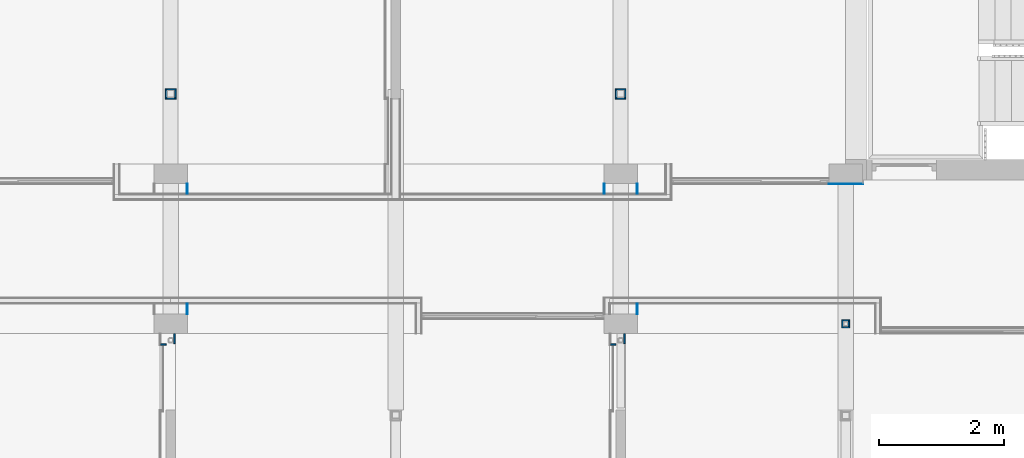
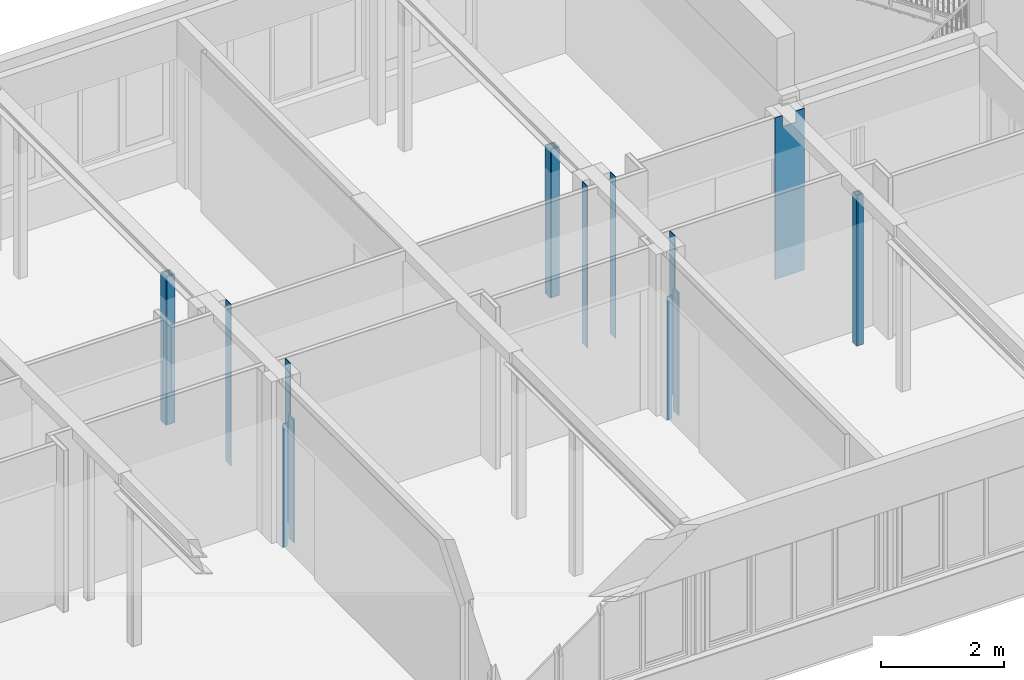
# One storey, part 66 of 117: 22 walls.
"""IFC2X3 building model written with IfcOpenShell, lengths in millimetres."""

from ifc_helpers import new_model, entity, si_unit, converted_unit, derived_unit, money_unit, direction, frame, origin_with_axes, place, context, subcontext, project, spatial, faceted_brep, material, type_object, element, save


model = new_model("IFC2X3")

# Units and contexts
model_context = context("Model", 3, precision=0.01, world=origin_with_axes(), true_north=direction((0.0, 1.0)))
body_context = subcontext(model_context, "Body", "Model", "MODEL_VIEW")
ifc_project = project(units=[si_unit("LENGTHUNIT", "METRE", prefix="MILLI"), si_unit("AREAUNIT", "SQUARE_METRE"), si_unit("VOLUMEUNIT", "CUBIC_METRE"), converted_unit("PLANEANGLEUNIT", "DEGREE", entity("IfcPlaneAngleMeasure", 0.0174532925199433), si_unit("PLANEANGLEUNIT", "RADIAN"), dimensions=[0, 0, 0, 0, 0, 0, 0]), money_unit("EUR"), converted_unit("TIMEUNIT", "Year", entity("IfcTimeMeasure", 31557600.0), si_unit("TIMEUNIT", "SECOND"), dimensions=[0, 0, 1, 0, 0, 0, 0]), si_unit("MASSUNIT", "GRAM", prefix="KILO"), si_unit("THERMODYNAMICTEMPERATUREUNIT", "DEGREE_CELSIUS"), si_unit("LUMINOUSINTENSITYUNIT", "LUMEN"), si_unit("ENERGYUNIT", "JOULE", prefix="MEGA"), derived_unit("THERMALCONDUCTANCEUNIT", [(si_unit("POWERUNIT", "WATT"), 1), (si_unit("LENGTHUNIT", "METRE"), -1), (si_unit("THERMODYNAMICTEMPERATUREUNIT", "KELVIN"), -1)]), derived_unit("SPECIFICHEATCAPACITYUNIT", [(si_unit("ENERGYUNIT", "JOULE"), 1), (si_unit("MASSUNIT", "GRAM", prefix="KILO"), -1), (si_unit("THERMODYNAMICTEMPERATUREUNIT", "KELVIN"), -1)]), derived_unit("MASSDENSITYUNIT", [(si_unit("MASSUNIT", "GRAM", prefix="KILO"), 1), (si_unit("VOLUMEUNIT", "CUBIC_METRE"), -1)])], contexts=[model_context])

# Site, building, storey
site_placement = place(None, origin_with_axes())
site = spatial("IfcSite", under=ifc_project, at=site_placement, Name="Site", CompositionType="ELEMENT")
building_placement = place(site_placement, origin_with_axes())
building = spatial("IfcBuilding", under=site, at=building_placement, Name="Naam gebouw", CompositionType="ELEMENT")
storey_placement = place(building_placement, frame((0.0, 0.0, 4150.0), z_axis=(0.0, 0.0, 1.0), x_axis=(1.0, 0.0, 0.0)))
storey = spatial("IfcBuildingStorey", under=building, at=storey_placement, Name="1e verdieping N", CompositionType="ELEMENT", Elevation=4150.0)

# Walls
ifc_material = material(Name="Gipsplaat")
wall_type_1 = type_object("IfcWallType", Name="Metalstud 100 enkel 100", PredefinedType="NOTDEFINED")
wall_1_placement = place(storey_placement, frame((50669.99999999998, 18180.91242510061, 0.0), z_axis=(0.0, 0.0, 1.0), x_axis=(0.0, 1.0, 0.0)))
element("IfcWall", 1, at=wall_1_placement, inside=storey, type_object=wall_type_1, material=ifc_material, Name="_Wand-x", context=body_context, shape_type="Brep", body=[
    faceted_brep([(164.999999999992, 0.0, 0.0), (164.999999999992, 12.50000000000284, 0.0), (164.999999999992, 12.50000000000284, 3200.0), (164.999999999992, 0.0, 3200.0), (0.0, 0.0, 0.0), (0.0, 12.50000000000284, 0.0), (0.0, 12.50000000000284, 3200.0), (0.0, 0.0, 3200.0)], [[[0, 1, 2, 3]], [[4, 5, 1, 0]], [[1, 5, 6, 2]], [[2, 6, 7, 3]], [[4, 0, 3, 7]], [[5, 4, 7, 6]]]),
])
wall_2_placement = place(storey_placement, frame((43469.99999999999, 18180.91242510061, 0.0), z_axis=(0.0, 0.0, 1.0), x_axis=(0.0, 1.0, 0.0)))
element("IfcWall", 2, at=wall_2_placement, inside=storey, type_object=wall_type_1, material=ifc_material, Name="_Wand-x", context=body_context, shape_type="Brep", body=[
    faceted_brep([(164.9999999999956, 0.0, 0.0), (164.9999999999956, 12.50000000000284, 0.0), (164.9999999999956, 12.50000000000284, 3200.0), (164.9999999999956, 0.0, 3200.0), (0.0, 0.0, 0.0), (0.0, 12.50000000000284, 0.0), (0.0, 12.50000000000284, 3200.0), (0.0, 0.0, 3200.0)], [[[0, 1, 2, 3]], [[4, 5, 1, 0]], [[1, 5, 6, 2]], [[2, 6, 7, 3]], [[4, 0, 3, 7]], [[5, 4, 7, 6]]]),
])
wall_3_placement = place(storey_placement, frame((43470.0, 20105.91242510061, 0.0), z_axis=(0.0, 0.0, 1.0), x_axis=(0.0, 1.0, 0.0)))
element("IfcWall", 3, at=wall_3_placement, inside=storey, type_object=wall_type_1, material=ifc_material, Name="_Wand-x", context=body_context, shape_type="Brep", body=[
    faceted_brep([(164.9999999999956, 0.0, 0.0), (164.9999999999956, 12.50000000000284, 0.0), (164.9999999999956, 12.50000000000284, 3200.0), (164.9999999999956, 0.0, 3200.0), (0.0, 0.0, 0.0), (0.0, 12.50000000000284, 0.0), (0.0, 12.50000000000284, 3200.0), (0.0, 0.0, 3200.0)], [[[0, 1, 2, 3]], [[0, 4, 5, 1]], [[1, 5, 6, 2]], [[2, 6, 7, 3]], [[4, 0, 3, 7]], [[5, 4, 7, 6]]]),
])
wall_4_placement = place(storey_placement, frame((50129.99999999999, 20105.91242510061, 0.0), z_axis=(0.0, 0.0, 1.0), x_axis=(0.0, 1.0, 0.0)))
element("IfcWall", 4, at=wall_4_placement, inside=storey, type_object=wall_type_1, material=ifc_material, Name="_Wand-x", context=body_context, shape_type="Brep", body=[
    faceted_brep([(164.9999999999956, -12.50000000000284, 0.0), (164.9999999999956, 0.0, 0.0), (164.9999999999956, 0.0, 3200.0), (164.9999999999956, -12.50000000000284, 3200.0), (0.0, -12.50000000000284, 0.0), (0.0, 0.0, 0.0), (0.0, 0.0, 3200.0), (0.0, -12.50000000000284, 3200.0)], [[[0, 1, 2, 3]], [[0, 4, 5, 1]], [[1, 5, 6, 2]], [[2, 6, 7, 3]], [[4, 0, 3, 7]], [[5, 4, 7, 6]]]),
])
wall_5_placement = place(storey_placement, frame((50669.99999999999, 20105.91242510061, 0.0), z_axis=(0.0, 0.0, 1.0), x_axis=(0.0, 1.0, 0.0)))
element("IfcWall", 5, at=wall_5_placement, inside=storey, type_object=wall_type_1, material=ifc_material, Name="_Wand-x", context=body_context, shape_type="Brep", body=[
    faceted_brep([(164.9999999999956, 0.0, 0.0), (164.9999999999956, 12.50000000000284, 0.0), (164.9999999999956, 12.50000000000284, 3200.0), (164.9999999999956, 0.0, 3200.0), (0.0, 0.0, 0.0), (0.0, 12.50000000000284, 0.0), (0.0, 12.50000000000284, 3200.0), (0.0, 0.0, 3200.0)], [[[0, 1, 2, 3]], [[0, 4, 5, 1]], [[1, 5, 6, 2]], [[2, 6, 7, 3]], [[4, 0, 3, 7]], [[5, 4, 7, 6]]]),
])
wall_type_2 = type_object("IfcWallType", Name="Gipsplaat 25", PredefinedType="NOTDEFINED")
wall_6_placement = place(storey_placement, frame((50484.99999999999, 21620.9124251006, 0.0), z_axis=(0.0, 0.0, 1.0), x_axis=(0.0, 1.0, 0.0)))
element("IfcWall", 6, at=wall_6_placement, inside=storey, type_object=wall_type_2, material=ifc_material, Name="_Wand-x", context=body_context, shape_type="Brep", body=[
    faceted_brep([(145.0000000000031, 25.00000000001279, 0.0), (145.0000000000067, 0.0, 0.0), (24.99999999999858, 0.0, 0.0), (24.99999999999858, 25.00000000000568, 0.0), (145.0000000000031, 25.00000000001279, 2940.0), (145.0000000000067, 0.0, 2940.0), (24.99999999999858, 0.0, 2940.0), (24.99999999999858, 25.00000000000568, 2940.0)], [[[0, 1, 2, 3]], [[1, 0, 4, 5]], [[1, 5, 6, 2]], [[7, 3, 2, 6]], [[4, 0, 3, 7]], [[5, 4, 7, 6]]]),
])
wall_7_placement = place(storey_placement, frame((50315.0, 21790.91242510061, 0.0), z_axis=(0.0, 0.0, 1.0), x_axis=(1.0, 0.0, 0.0)))
element("IfcWall", 7, at=wall_7_placement, inside=storey, type_object=wall_type_2, material=ifc_material, Name="_Wand-x", context=body_context, shape_type="Brep", body=[
    faceted_brep([(170.0000000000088, -24.99999999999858, 2940.0), (170.0000000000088, 0.0, 2940.0), (24.99999999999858, 0.0, 2940.0), (24.99999999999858, -24.99999999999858, 2940.0), (170.0000000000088, -24.99999999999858, 0.0), (170.0000000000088, 0.0, 0.0), (24.99999999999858, 0.0, 0.0), (24.99999999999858, -24.99999999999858, 0.0)], [[[0, 1, 2, 3]], [[1, 0, 4, 5]], [[1, 5, 6, 2]], [[7, 3, 2, 6]], [[4, 0, 3, 7]], [[5, 4, 7, 6]]]),
])
wall_8_placement = place(storey_placement, frame((43114.99999999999, 21620.91242510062, 0.0), z_axis=(0.0, 0.0, 1.0), x_axis=(0.0, 1.0, 0.0)))
element("IfcWall", 8, at=wall_8_placement, inside=storey, type_object=wall_type_2, material=ifc_material, Name="_Wand-x", context=body_context, shape_type="Brep", body=[
    faceted_brep([(169.999999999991, -24.99999999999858, 2940.000000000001), (169.999999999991, 0.0, 2940.000000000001), (0.0, 0.0, 2940.000000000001), (0.0, -24.99999999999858, 2940.000000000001), (169.999999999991, -24.99999999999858, 0.0), (169.999999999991, 0.0, 0.0), (0.0, 0.0, 0.0), (0.0, -24.99999999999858, 0.0)], [[[0, 1, 2, 3]], [[1, 0, 4, 5]], [[1, 5, 6, 2]], [[7, 3, 2, 6]], [[4, 0, 3, 7]], [[5, 4, 7, 6]]]),
])
wall_9_placement = place(storey_placement, frame((43114.99999999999, 21790.91242510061, 0.0), z_axis=(0.0, 0.0, 1.0), x_axis=(1.0, 0.0, 0.0)))
element("IfcWall", 9, at=wall_9_placement, inside=storey, type_object=wall_type_2, material=ifc_material, Name="_Wand-x", context=body_context, shape_type="Brep", body=[
    faceted_brep([(170.0000000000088, -24.99999999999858, 2940.000000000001), (170.0000000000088, 0.0, 2940.000000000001), (24.99999999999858, 0.0, 2940.000000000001), (24.99999999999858, -24.99999999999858, 2940.000000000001), (170.0000000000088, -24.99999999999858, 0.0), (170.0000000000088, 0.0, 0.0), (24.99999999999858, 0.0, 0.0), (24.99999999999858, -24.99999999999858, 0.0)], [[[0, 1, 2, 3]], [[1, 0, 4, 5]], [[1, 5, 6, 2]], [[7, 3, 2, 6]], [[4, 0, 3, 7]], [[5, 4, 7, 6]]]),
])
wall_10_placement = place(storey_placement, frame((50315.0, 21620.91242510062, 0.0), z_axis=(0.0, 0.0, 1.0), x_axis=(1.0, 0.0, 0.0)))
element("IfcWall", 10, at=wall_10_placement, inside=storey, type_object=wall_type_2, material=ifc_material, Name="_Wand-x", context=body_context, shape_type="Brep", body=[
    faceted_brep([(170.0000000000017, 25.00000000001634, 0.0), (169.9999999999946, 0.0, 0.0), (24.99999999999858, 0.0, 0.0), (24.99999999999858, 25.00000000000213, 0.0), (170.0000000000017, 25.00000000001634, 2940.0), (169.9999999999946, 0.0, 2940.0), (24.99999999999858, 0.0, 2940.0), (24.99999999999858, 25.00000000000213, 2940.0)], [[[0, 1, 2, 3]], [[1, 0, 4, 5]], [[1, 5, 6, 2]], [[7, 3, 2, 6]], [[4, 0, 3, 7]], [[5, 4, 7, 6]]]),
])
wall_11_placement = place(storey_placement, frame((43275.00000000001, 17685.91242510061, 0.0), z_axis=(0.0, 0.0, 1.0), x_axis=(-1.0, 0.0, 0.0)))
element("IfcWall", 11, at=wall_11_placement, inside=storey, type_object=wall_type_2, material=ifc_material, Name="_Wand-x", context=body_context, shape_type="Brep", body=[
    faceted_brep([(237.5000000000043, -24.99999999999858, 2440.0), (237.5000000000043, 0.0, 2440.0), (150.0000000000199, 0.0, 2440.0), (150.0000000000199, -24.99999999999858, 2440.0), (237.5000000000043, -24.99999999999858, 0.0), (237.5000000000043, 0.0, 0.0), (150.0000000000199, 0.0, 0.0), (150.0000000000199, -24.99999999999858, 0.0)], [[[0, 1, 2, 3]], [[1, 0, 4, 5]], [[1, 5, 6, 2]], [[7, 3, 2, 6]], [[4, 0, 3, 7]], [[5, 4, 7, 6]]]),
])
wall_12_placement = place(storey_placement, frame((43114.99999999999, 21620.91242510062, 0.0), z_axis=(0.0, 0.0, 1.0), x_axis=(1.0, 0.0, 0.0)))
element("IfcWall", 12, at=wall_12_placement, inside=storey, type_object=wall_type_2, material=ifc_material, Name="_Wand-x", context=body_context, shape_type="Brep", body=[
    faceted_brep([(170.0000000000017, 25.00000000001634, 0.0), (169.9999999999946, 0.0, 0.0), (24.99999999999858, 0.0, 0.0), (24.99999999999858, 25.00000000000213, 0.0), (170.0000000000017, 25.00000000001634, 2940.000000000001), (169.9999999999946, 0.0, 2940.000000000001), (24.99999999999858, 0.0, 2940.000000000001), (24.99999999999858, 25.00000000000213, 2940.000000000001)], [[[0, 1, 2, 3]], [[1, 0, 4, 5]], [[1, 5, 6, 2]], [[7, 3, 2, 6]], [[4, 0, 3, 7]], [[5, 4, 7, 6]]]),
])
wall_13_placement = place(storey_placement, frame((50315.0, 21620.91242510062, 0.0), z_axis=(0.0, 0.0, 1.0), x_axis=(0.0, 1.0, 0.0)))
element("IfcWall", 13, at=wall_13_placement, inside=storey, type_object=wall_type_2, material=ifc_material, Name="_Wand-x", context=body_context, shape_type="Brep", body=[
    faceted_brep([(169.999999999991, -24.99999999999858, 2940.0), (169.999999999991, 0.0, 2940.0), (0.0, 0.0, 2940.0), (0.0, -24.99999999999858, 2940.0), (169.999999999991, -24.99999999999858, 0.0), (169.999999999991, 0.0, 0.0), (0.0, 0.0, 0.0), (0.0, -24.99999999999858, 0.0)], [[[0, 1, 2, 3]], [[1, 0, 4, 5]], [[1, 5, 6, 2]], [[7, 3, 2, 6]], [[4, 0, 3, 7]], [[5, 4, 7, 6]]]),
])
wall_14_placement = place(storey_placement, frame((43275.00000000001, 17685.91242510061, 0.0), z_axis=(0.0, 0.0, 1.0), x_axis=(0.0, 1.0, 0.0)))
element("IfcWall", 14, at=wall_14_placement, inside=storey, type_object=wall_type_2, material=ifc_material, Name="_Wand-x", context=body_context, shape_type="Brep", body=[
    faceted_brep([(24.99999999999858, 0.0, 0.0), (24.99999999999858, 24.99999999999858, 0.0), (184.9999999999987, 24.99999999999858, 0.0), (184.9999999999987, 0.0, 0.0), (24.99999999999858, 0.0, 2440.0), (24.99999999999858, 24.99999999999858, 2440.0), (184.9999999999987, 24.99999999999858, 2440.0), (184.9999999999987, 0.0, 2440.0)], [[[0, 1, 2, 3]], [[4, 5, 1, 0]], [[1, 5, 6, 2]], [[7, 3, 2, 6]], [[4, 0, 3, 7]], [[5, 4, 7, 6]]]),
])
wall_15_placement = place(storey_placement, frame((50474.99999999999, 17685.91242510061, 0.0), z_axis=(0.0, 0.0, 1.0), x_axis=(-1.0, 0.0, 0.0)))
element("IfcWall", 15, at=wall_15_placement, inside=storey, type_object=wall_type_2, material=ifc_material, Name="_Wand-x", context=body_context, shape_type="Brep", body=[
    faceted_brep([(237.500013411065, -24.99999999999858, 2440.0), (237.500013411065, 0.0, 2440.0), (150.0000134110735, 0.0, 2440.0), (150.0000134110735, -24.99999999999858, 2440.0), (237.500013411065, -24.99999999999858, 0.0), (237.500013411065, 0.0, 0.0), (150.0000134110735, 0.0, 0.0), (150.0000134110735, -24.99999999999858, 0.0)], [[[0, 1, 2, 3]], [[1, 0, 4, 5]], [[1, 5, 6, 2]], [[7, 3, 2, 6]], [[4, 0, 3, 7]], [[5, 4, 7, 6]]]),
])
wall_16_placement = place(storey_placement, frame((50474.99999999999, 17685.91242510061, 0.0), z_axis=(0.0, 0.0, 1.0), x_axis=(0.0, 1.0, 0.0)))
element("IfcWall", 16, at=wall_16_placement, inside=storey, type_object=wall_type_2, material=ifc_material, Name="_Wand-x", context=body_context, shape_type="Brep", body=[
    faceted_brep([(24.99999999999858, 0.0, 0.0), (24.99999999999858, 24.99999999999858, 0.0), (184.9999999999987, 24.99999999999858, 0.0), (184.9999999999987, 0.0, 0.0), (24.99999999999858, 0.0, 2440.0), (24.99999999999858, 24.99999999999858, 2440.0), (184.9999999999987, 24.99999999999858, 2440.0), (184.9999999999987, 0.0, 2440.0)], [[[0, 1, 2, 3]], [[4, 5, 1, 0]], [[1, 5, 6, 2]], [[7, 3, 2, 6]], [[4, 0, 3, 7]], [[5, 4, 7, 6]]]),
])
wall_17_placement = place(storey_placement, frame((43284.99999999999, 21620.9124251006, 0.0), z_axis=(0.0, 0.0, 1.0), x_axis=(0.0, 1.0, 0.0)))
element("IfcWall", 17, at=wall_17_placement, inside=storey, type_object=wall_type_2, material=ifc_material, Name="_Wand-x", context=body_context, shape_type="Brep", body=[
    faceted_brep([(145.0000000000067, 25.00000000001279, 0.0), (145.0000000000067, 0.0, 0.0), (24.99999999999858, 0.0, 0.0), (25.00000000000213, 25.00000000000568, 0.0), (145.0000000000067, 25.00000000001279, 2940.000000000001), (145.0000000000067, 0.0, 2940.000000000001), (24.99999999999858, 0.0, 2940.000000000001), (25.00000000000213, 25.00000000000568, 2940.000000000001)], [[[0, 1, 2, 3]], [[1, 0, 4, 5]], [[1, 5, 6, 2]], [[7, 3, 2, 6]], [[4, 0, 3, 7]], [[5, 4, 7, 6]]]),
])
wall_18_placement = place(storey_placement, frame((53935.0, 17960.91242510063, 0.0), z_axis=(0.0, 0.0, 1.0), x_axis=(0.0, 1.0, 0.0)))
element("IfcWall", 18, at=wall_18_placement, inside=storey, type_object=wall_type_2, material=ifc_material, Name="_Wand-x", context=body_context, shape_type="Brep", body=[
    faceted_brep([(129.9999999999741, -24.99999999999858, 2980.0), (129.9999999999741, 0.0, 2980.0), (0.0, 0.0, 2980.0), (0.0, -24.99999999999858, 2980.0), (129.9999999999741, -24.99999999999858, 0.0), (129.9999999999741, 0.0, 0.0), (0.0, 0.0, 0.0), (0.0, -24.99999999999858, 0.0)], [[[0, 1, 2, 3]], [[1, 0, 4, 5]], [[1, 5, 6, 2]], [[7, 3, 2, 6]], [[4, 0, 3, 7]], [[5, 4, 7, 6]]]),
])
wall_19_placement = place(storey_placement, frame((53935.0, 18090.9124251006, 0.0), z_axis=(0.0, 0.0, 1.0), x_axis=(1.0, 0.0, 0.0)))
element("IfcWall", 19, at=wall_19_placement, inside=storey, type_object=wall_type_2, material=ifc_material, Name="_Wand-x", context=body_context, shape_type="Brep", body=[
    faceted_brep([(130.0000000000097, -24.99999999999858, 2980.0), (130.0000000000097, 0.0, 2980.0), (24.99999999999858, 0.0, 2980.0), (24.99999999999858, -24.99999999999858, 2980.0), (130.0000000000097, -24.99999999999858, 0.0), (130.0000000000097, 0.0, 0.0), (24.99999999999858, 0.0, 0.0), (24.99999999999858, -24.99999999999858, 0.0)], [[[0, 1, 2, 3]], [[1, 0, 4, 5]], [[1, 5, 6, 2]], [[7, 3, 2, 6]], [[4, 0, 3, 7]], [[5, 4, 7, 6]]]),
])
wall_20_placement = place(storey_placement, frame((53935.0, 17960.91242510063, 0.0), z_axis=(0.0, 0.0, 1.0), x_axis=(1.0, 0.0, 0.0)))
element("IfcWall", 20, at=wall_20_placement, inside=storey, type_object=wall_type_2, material=ifc_material, Name="_Wand-x", context=body_context, shape_type="Brep", body=[
    faceted_brep([(130.0000000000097, 24.99999999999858, 0.0), (130.0000000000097, 0.0, 0.0), (24.99999999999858, 0.0, 0.0), (24.99999999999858, 24.99999999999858, 0.0), (130.0000000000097, 24.99999999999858, 2980.0), (130.0000000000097, 0.0, 2980.0), (24.99999999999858, 0.0, 2980.0), (24.99999999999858, 24.99999999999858, 2980.0)], [[[0, 1, 2, 3]], [[1, 0, 4, 5]], [[1, 5, 6, 2]], [[7, 3, 2, 6]], [[4, 0, 3, 7]], [[5, 4, 7, 6]]]),
])
wall_21_placement = place(storey_placement, frame((54065.00000000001, 17960.91242510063, 0.0), z_axis=(0.0, 0.0, 1.0), x_axis=(0.0, 1.0, 0.0)))
element("IfcWall", 21, at=wall_21_placement, inside=storey, type_object=wall_type_2, material=ifc_material, Name="_Wand-x", context=body_context, shape_type="Brep", body=[
    faceted_brep([(104.9999999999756, 24.99999999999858, 0.0), (104.9999999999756, 0.0, 0.0), (24.99999999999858, 0.0, 0.0), (24.99999999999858, 24.99999999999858, 0.0), (104.9999999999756, 24.99999999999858, 2980.0), (104.9999999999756, 0.0, 2980.0), (24.99999999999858, 0.0, 2980.0), (24.99999999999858, 24.99999999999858, 2980.0)], [[[0, 1, 2, 3]], [[1, 0, 4, 5]], [[1, 5, 6, 2]], [[7, 3, 2, 6]], [[4, 0, 3, 7]], [[5, 4, 7, 6]]]),
])
wall_type_3 = type_object("IfcWallType", Name="Gipsplaat 13", PredefinedType="NOTDEFINED")
wall_22_placement = place(storey_placement, frame((53730.0, 20255.91242510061, 0.0), z_axis=(0.0, 0.0, 1.0), x_axis=(1.0, 0.0, 0.0)))
element("IfcWall", 22, at=wall_22_placement, inside=storey, type_object=wall_type_3, material=ifc_material, Name="_Wand-x", context=body_context, shape_type="Brep", body=[
    faceted_brep([(145.0000000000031, 12.49999999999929, 3200.0), (145.0000000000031, 12.49999999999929, 2980.0), (395.0000000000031, 12.49999999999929, 2980.0), (395.0000000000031, 12.49999999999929, 3200.0), (554.5000000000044, 12.49999999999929, 3200.0), (554.5000000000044, 12.49999999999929, 0.0), (0.0, 12.49999999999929, 0.0), (0.0, 12.49999999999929, 3200.0), (145.0000000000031, 0.0, 2980.0), (145.0000000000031, 0.0, 3200.0), (395.0000000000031, 0.0, 2980.0), (395.0000000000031, 0.0, 3200.0), (554.5000000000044, 0.0, 3200.0), (554.5000000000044, 0.0, 0.0), (0.0, 0.0, 0.0), (0.0, 0.0, 3200.0)], [[[0, 1, 2, 3, 4, 5, 6, 7]], [[8, 1, 0, 9]], [[10, 2, 1, 8]], [[10, 11, 3, 2]], [[4, 3, 11, 12]], [[13, 5, 4, 12]], [[14, 6, 5, 13]], [[6, 14, 15, 7]], [[15, 9, 0, 7]], [[10, 8, 9, 15, 14, 13, 12, 11]]]),
])

save(model, "model.ifc")
